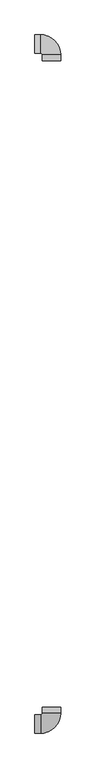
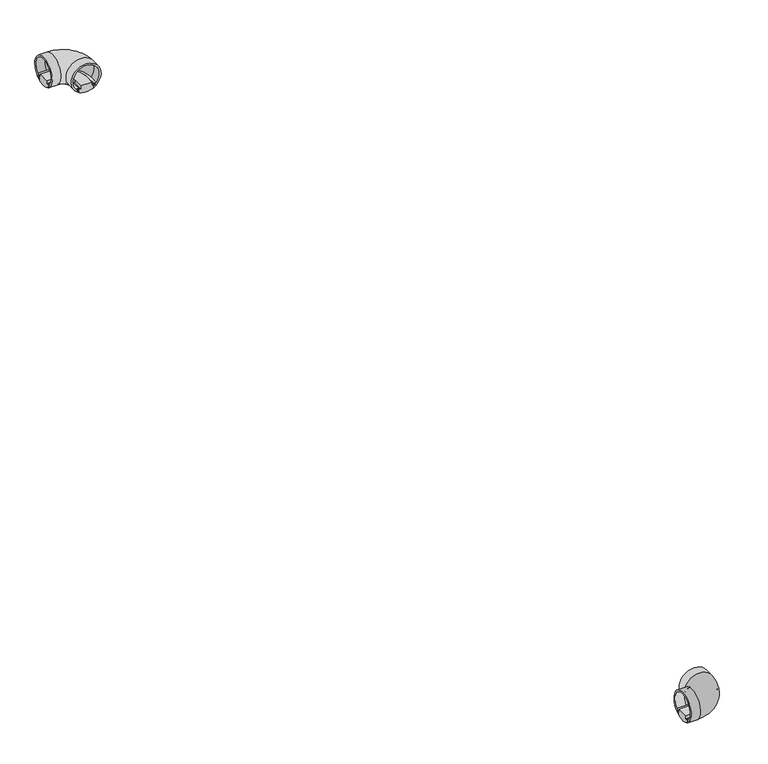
"""IFC4 building model written with IfcOpenShell, lengths in millimetres: light fixture geometry."""

from ifc_helpers import new_model, si_unit, point, frame, origin, place, context, project, spatial, polyline, circle_curve, ellipse_curve, trimmed, source, transform, mapped, element, save
from ifc_brep_helpers import plane_surface, cylinder_surface, revolved_surface, advanced_brep


def light_fixture_6dee26b3(model_context):
    return source(origin(), model_context, "Body", "AdvancedBrep", [
        advanced_brep(
        [(1897.7532014, 1700.5, 52.9333396), (1897.7532014, 1700.5, 57.259212), (1901.3072884, 1700.5, 57.259212), (1901.3072884, 1700.5, 58.785971), (1895.5094589, 1700.5, 58.785971), (1895.5094589, 1700.5, 64.4273482), (1876.4969439, 1700.5, 64.4273482), (1876.4969439, 1700.5, 58.785971), (1870.6991144, 1700.5, 58.785971), (1870.6991144, 1700.5, 57.259212), (1874.2532014, 1700.5, 57.259212), (1874.2532014, 1700.5, 52.9333396), (1840.5032014, 1757.75, 52.9333396), (1840.5032014, 1734.25, 52.9333396), (1840.5032014, 1734.25, 57.259212), (1840.5032014, 1730.695913, 57.259212), (1840.5032014, 1730.695913, 58.785971), (1840.5032014, 1736.4937425, 58.785971), (1840.5032014, 1736.4937425, 64.4273482), (1840.5032014, 1755.5062575, 64.4273482), (1840.5032014, 1755.5062575, 58.785971), (1840.5032014, 1761.304087, 58.785971), (1840.5032014, 1761.304087, 57.259212), (1840.5032014, 1757.75, 57.259212), (1874.2532014, 1716.0, 52.9333396), (1897.7532014, 1716.0, 52.9333396), (1874.2532014, 1716.0, 57.259212), (1870.6991144, 1716.0, 57.259212), (1856.0032014, 1730.695913, 57.259212), (1856.0032014, 1734.25, 57.259212), (1870.6991144, 1716.0, 58.785971), (1876.4969439, 1716.0, 58.785971), (1856.0032014, 1736.4937425, 58.785971), (1856.0032014, 1730.695913, 58.785971), (1876.4969439, 1716.0, 64.4273482), (1895.5094589, 1716.0, 64.4273482), (1856.0032014, 1755.5062575, 64.4273482), (1856.0032014, 1736.4937425, 64.4273482), (1895.5094589, 1716.0, 58.785971), (1901.3072884, 1716.0, 58.785971), (1856.0032014, 1761.304087, 58.785971), (1856.0032014, 1755.5062575, 58.785971), (1901.3072884, 1716.0, 57.259212), (1897.7532014, 1716.0, 57.259212), (1856.0032014, 1757.75, 57.259212), (1856.0032014, 1761.304087, 57.259212), (1856.0032014, 1757.75, 52.9333396), (1856.0032014, 1734.25, 52.9333396)],
        [
            (0, 1),
            (1, 2),
            (2, 3),
            (3, 4),
            (4, 5),
            (5, 6),
            (6, 7),
            (7, 8),
            (8, 9),
            (9, 10),
            (10, 11),
            (11, 0, circle_curve(frame((1886.0032014, 1700.5, 75.0), z_axis=(0.0, -1.0, 0.0), x_axis=(-1.0, 0.0, 0.0)), 25.0)),
            (12, 13, circle_curve(frame((1840.5032014, 1746.0, 75.0), z_axis=(-1.0, 0.0, 0.0), x_axis=(0.0, -1.0, 0.0)), 25.0)),
            (13, 14),
            (14, 15),
            (15, 16),
            (16, 17),
            (17, 18),
            (18, 19),
            (19, 20),
            (20, 21),
            (21, 22),
            (22, 23),
            (23, 12),
            (11, 24),
            (24, 25, circle_curve(frame((1886.0032014, 1716.0, 75.0), z_axis=(0.0, -1.0, 0.0), x_axis=(-1.0, 0.0, 0.0)), 25.0)),
            (25, 0),
            (10, 26),
            (26, 24),
            (9, 27),
            (27, 28, circle_curve(frame((1856.0032014, 1716.0, 57.259212), z_axis=(0.0, 0.0, 1.0), x_axis=(1.0, 0.0, 0.0)), 14.695913)),
            (28, 15),
            (14, 29),
            (29, 26, circle_curve(frame((1856.0032014, 1716.0, 57.259212), z_axis=(0.0, 0.0, -1.0), x_axis=(1.0, 0.0, 0.0)), 18.25)),
            (8, 30),
            (30, 27),
            (7, 31),
            (31, 32, circle_curve(frame((1856.0032014, 1716.0, 58.785971), z_axis=(0.0, 0.0, 1.0), x_axis=(1.0, 0.0, 0.0)), 20.4937425)),
            (32, 17),
            (16, 33),
            (33, 30, circle_curve(frame((1856.0032014, 1716.0, 58.785971), z_axis=(0.0, 0.0, -1.0), x_axis=(1.0, 0.0, 0.0)), 14.695913)),
            (6, 34),
            (34, 31),
            (5, 35),
            (35, 36, circle_curve(frame((1856.0032014, 1716.0, 64.4273482), z_axis=(0.0, 0.0, 1.0), x_axis=(1.0, 0.0, 0.0)), 39.5062575)),
            (36, 19),
            (18, 37),
            (37, 34, circle_curve(frame((1856.0032014, 1716.0, 64.4273482), z_axis=(0.0, 0.0, -1.0), x_axis=(1.0, 0.0, 0.0)), 20.4937425)),
            (4, 38),
            (38, 35),
            (3, 39),
            (39, 40, circle_curve(frame((1856.0032014, 1716.0, 58.785971), z_axis=(0.0, 0.0, 1.0), x_axis=(1.0, 0.0, 0.0)), 45.304087)),
            (40, 21),
            (20, 41),
            (41, 38, circle_curve(frame((1856.0032014, 1716.0, 58.785971), z_axis=(0.0, 0.0, -1.0), x_axis=(1.0, 0.0, 0.0)), 39.5062575)),
            (2, 42),
            (42, 39),
            (1, 43),
            (43, 44, circle_curve(frame((1856.0032014, 1716.0, 57.259212), z_axis=(0.0, 0.0, 1.0), x_axis=(1.0, 0.0, 0.0)), 41.75)),
            (44, 23),
            (22, 45),
            (45, 42, circle_curve(frame((1856.0032014, 1716.0, 57.259212), z_axis=(0.0, 0.0, -1.0), x_axis=(1.0, 0.0, 0.0)), 45.304087)),
            (25, 43),
            (46, 25, circle_curve(frame((1856.0032014, 1716.0, 52.9333396), z_axis=(0.0, 0.0, -1.0), x_axis=(1.0, 0.0, 0.0)), 41.75)),
            (24, 47, circle_curve(frame((1856.0032014, 1716.0, 52.9333396), z_axis=(0.0, 0.0, 1.0), x_axis=(1.0, 0.0, 0.0)), 18.25)),
            (47, 46, circle_curve(frame((1856.0032014, 1746.0, 75.0), z_axis=(1.0, 0.0, 0.0), x_axis=(0.0, -1.0, 0.0)), 25.0)),
            (29, 47),
            (33, 28),
            (37, 32),
            (41, 36),
            (45, 40),
            (46, 44),
            (47, 13),
            (12, 46),
        ],
        [
            plane_surface(frame((1886.0032014, 1700.5, 50.0), z_axis=(0.0, -1.0, 0.0), x_axis=(0.0, 0.0, 1.0))),
            plane_surface(frame((1840.5032014, 1746.0, 50.0), z_axis=(-1.0, 0.0, 0.0), x_axis=(0.0, 0.0, 1.0))),
            cylinder_surface(frame((1886.0032014, 1700.5, 75.0), z_axis=(0.0, -1.0, 0.0), x_axis=(-1.0, 0.0, 0.0)), 25.0),
            plane_surface(frame((1874.2532014, 1700.5, 57.259212), z_axis=(-1.0, 0.0, 0.0), x_axis=(0.0, 1.0, 0.0))),
            plane_surface(frame((1870.6991144, 1700.5, 57.259212), z_axis=(0.0, 0.0, -1.0), x_axis=(0.0, 1.0, 0.0))),
            plane_surface(frame((1870.6991144, 1700.5, 58.785971), z_axis=(-1.0, 0.0, 0.0), x_axis=(0.0, 1.0, 0.0))),
            plane_surface(frame((1876.4969439, 1700.5, 58.785971), z_axis=(0.0, 0.0, 1.0), x_axis=(0.0, 1.0, 0.0))),
            plane_surface(frame((1876.4969439, 1700.5, 64.4273482), z_axis=(-1.0, 0.0, 0.0), x_axis=(0.0, 1.0, 0.0))),
            plane_surface(frame((1895.5094589, 1700.5, 64.4273482), z_axis=(0.0, 0.0, 1.0), x_axis=(0.0, 1.0, 0.0))),
            plane_surface(frame((1895.5094589, 1700.5, 58.785971), z_axis=(1.0, 0.0, 0.0), x_axis=(0.0, 1.0, 0.0))),
            plane_surface(frame((1901.3072884, 1700.5, 58.785971), z_axis=(0.0, 0.0, 1.0), x_axis=(0.0, 1.0, 0.0))),
            plane_surface(frame((1901.3072884, 1700.5, 57.259212), z_axis=(1.0, 0.0, 0.0), x_axis=(0.0, 1.0, 0.0))),
            plane_surface(frame((1897.7532014, 1700.5, 57.259212), z_axis=(0.0, 0.0, -1.0), x_axis=(0.0, 1.0, 0.0))),
            plane_surface(frame((1897.7532014, 1700.5, 52.9333396), z_axis=(1.0, 0.0, 0.0), x_axis=(0.0, 1.0, 0.0))),
            revolved_surface(trimmed(ellipse_curve(frame((1886.0032014, 1716.0, 75.0), z_axis=(0.0, -1.0, 0.0), x_axis=(-1.0, 0.0, 0.0)), 25.0, 25.0), [point((1874.2532014, 1716.0, 52.9333396))], [point((1897.7532014, 1716.0, 52.9333396))], True, "CARTESIAN"), (1856.0032014, 1716.0, 50.0), (0.0, 0.0, 1.0)),
            revolved_surface(polyline([(1874.2532014, 1716.0, 57.259212), (1874.2532014, 1716.0, 52.9333396)]), (1856.0032014, 1716.0, 50.0), (0.0, 0.0, 1.0)),
            revolved_surface(polyline([(1870.6991144, 1716.0, 58.785971), (1870.6991144, 1716.0, 57.259212)]), (1856.0032014, 1716.0, 50.0), (0.0, 0.0, 1.0)),
            revolved_surface(polyline([(1876.4969439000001, 1716.0, 64.4273482), (1876.4969439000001, 1716.0, 58.785971)]), (1856.0032014, 1716.0, 50.0), (0.0, 0.0, 1.0)),
            cylinder_surface(frame((1856.0032014, 1716.0, 50.0), z_axis=(0.0, 0.0, 1.0), x_axis=(1.0, 0.0, 0.0)), 39.5062575),
            cylinder_surface(frame((1856.0032014, 1716.0, 50.0), z_axis=(0.0, 0.0, 1.0), x_axis=(1.0, 0.0, 0.0)), 45.304087),
            cylinder_surface(frame((1856.0032014, 1716.0, 50.0), z_axis=(0.0, 0.0, 1.0), x_axis=(1.0, 0.0, 0.0)), 41.75),
            cylinder_surface(frame((1856.0032014, 1746.0, 75.0), z_axis=(1.0, 0.0, 0.0), x_axis=(0.0, -1.0, 0.0)), 25.0),
            plane_surface(frame((1856.0032014, 1734.25, 57.259212), z_axis=(0.0, -1.0, 0.0), x_axis=(-1.0, 0.0, 0.0))),
            plane_surface(frame((1856.0032014, 1730.695913, 58.785971), z_axis=(0.0, -1.0, 0.0), x_axis=(-1.0, 0.0, 0.0))),
            plane_surface(frame((1856.0032014, 1736.4937425, 64.4273482), z_axis=(0.0, -1.0, 0.0), x_axis=(-1.0, 0.0, 0.0))),
            plane_surface(frame((1856.0032014, 1755.5062575, 58.785971), z_axis=(0.0, 1.0, 0.0), x_axis=(-1.0, 0.0, 0.0))),
            plane_surface(frame((1856.0032014, 1761.304087, 57.259212), z_axis=(0.0, 1.0, 0.0), x_axis=(-1.0, 0.0, 0.0))),
            plane_surface(frame((1856.0032014, 1757.75, 52.9333396), z_axis=(0.0, 1.0, 0.0), x_axis=(-1.0, 0.0, 0.0))),
        ],
        [
            (0, [[1, 2, 3, 4, 5, 6, 7, 8, 9, 10, 11, 12]]),
            (1, [[13, 14, 15, 16, 17, 18, 19, 20, 21, 22, 23, 24]]),
            (2, [[-12, 25, 26, 27]]),
            (3, [[-11, 28, 29, -25]]),
            (4, [[-10, 30, 31, 32, -15, 33, 34, -28]]),
            (5, [[-9, 35, 36, -30]]),
            (6, [[-8, 37, 38, 39, -17, 40, 41, -35]]),
            (7, [[-7, 42, 43, -37]]),
            (8, [[-6, 44, 45, 46, -19, 47, 48, -42]]),
            (9, [[-5, 49, 50, -44]]),
            (10, [[-4, 51, 52, 53, -21, 54, 55, -49]]),
            (11, [[-3, 56, 57, -51]]),
            (12, [[-2, 58, 59, 60, -23, 61, 62, -56]]),
            (13, [[-1, -27, 63, -58]]),
            (14, [[64, -26, 65, 66]]),
            (15, [[-65, -29, -34, 67]]),
            (16, [[-31, -36, -41, 68]]),
            (17, [[-38, -43, -48, 69]]),
            (18, [[-45, -50, -55, 70]]),
            (19, [[-52, -57, -62, 71]]),
            (20, [[-59, -63, -64, 72]]),
            (21, [[-66, 73, -13, 74]]),
            (22, [[-67, -33, -14, -73]]),
            (23, [[-68, -40, -16, -32]]),
            (24, [[-69, -47, -18, -39]]),
            (25, [[-70, -54, -20, -46]]),
            (26, [[-71, -61, -22, -53]]),
            (27, [[-72, -74, -24, -60]]),
        ],
    ),
        advanced_brep(
        [(1874.2532014, 1700.5, 52.9333396), (1874.2532014, 1700.5, 57.259212), (1872.3354474, 1700.5, 57.259212), (1872.3354474, 1700.5, 55.8288843), (1870.3854474, 1700.5, 57.2440748), (1870.3854474, 1700.5, 59.244074), (1873.3354474, 1700.5, 59.244074), (1873.3354474, 1700.5, 60.744074), (1868.725222, 1700.5, 60.744074), (1903.2811808, 1700.5, 60.744074), (1898.6709554, 1700.5, 60.744074), (1898.6709554, 1700.5, 59.244074), (1901.6209554, 1700.5, 59.244074), (1901.6209554, 1700.5, 57.2440748), (1899.6709554, 1700.5, 55.8288843), (1899.6709554, 1700.5, 57.259212), (1897.7532014, 1700.5, 57.259212), (1897.7532014, 1700.5, 52.9333396), (1840.5032014, 1734.25, 52.9333396), (1840.5032014, 1757.75, 52.9333396), (1840.5032014, 1757.75, 57.259212), (1840.5032014, 1759.667754, 57.259212), (1840.5032014, 1759.667754, 55.8288843), (1840.5032014, 1761.617754, 57.2440748), (1840.5032014, 1761.617754, 59.244074), (1840.5032014, 1758.667754, 59.244074), (1840.5032014, 1758.667754, 60.744074), (1840.5032014, 1763.2779794, 60.744074), (1840.5032014, 1728.7220206, 60.744074), (1840.5032014, 1733.332246, 60.744074), (1840.5032014, 1733.332246, 59.244074), (1840.5032014, 1730.382246, 59.244074), (1840.5032014, 1730.382246, 57.2440748), (1840.5032014, 1732.332246, 55.8288843), (1840.5032014, 1732.332246, 57.259212), (1840.5032014, 1734.25, 57.259212), (1897.7532014, 1716.0, 52.9333396), (1874.2532014, 1716.0, 52.9333396), (1897.7532014, 1716.0, 57.259212), (1899.6709554, 1716.0, 57.259212), (1856.0032014, 1759.667754, 57.259212), (1856.0032014, 1757.75, 57.259212), (1899.6709554, 1716.0, 55.8288843), (1901.6209554, 1716.0, 57.2440748), (1901.6209554, 1716.0, 59.244074), (1898.6709554, 1716.0, 59.244074), (1856.0032014, 1758.667754, 59.244074), (1856.0032014, 1761.617754, 59.244074), (1898.6709554, 1716.0, 60.744074), (1903.2811808, 1716.0, 60.744074), (1856.0032014, 1763.2779794, 60.744074), (1856.0032014, 1758.667754, 60.744074), (1868.725222, 1716.0, 60.744074), (1873.3354474, 1716.0, 60.744074), (1856.0032014, 1733.332246, 60.744074), (1856.0032014, 1728.7220206, 60.744074), (1873.3354474, 1716.0, 59.244074), (1870.3854474, 1716.0, 59.244074), (1856.0032014, 1730.382246, 59.244074), (1856.0032014, 1733.332246, 59.244074), (1870.3854474, 1716.0, 57.2440748), (1872.3354474, 1716.0, 55.8288843), (1872.3354474, 1716.0, 57.259212), (1874.2532014, 1716.0, 57.259212), (1856.0032014, 1734.25, 57.259212), (1856.0032014, 1732.332246, 57.259212), (1856.0032014, 1734.25, 52.9333396), (1856.0032014, 1757.75, 52.9333396), (1856.0032014, 1759.667754, 55.8288843), (1856.0032014, 1761.617754, 57.2440748), (1856.0032014, 1730.382246, 57.2440748), (1856.0032014, 1732.332246, 55.8288843)],
        [
            (0, 1),
            (1, 2),
            (2, 3),
            (3, 4),
            (4, 5),
            (5, 6),
            (6, 7),
            (7, 8),
            (8, 9, circle_curve(frame((1886.0032014, 1700.5, 75.0), z_axis=(0.0, 1.0, 0.0), x_axis=(-1.0, 0.0, 0.0)), 22.4)),
            (9, 10),
            (10, 11),
            (11, 12),
            (12, 13),
            (13, 14),
            (14, 15),
            (15, 16),
            (16, 17),
            (17, 0, circle_curve(frame((1886.0032014, 1700.5, 75.0), z_axis=(0.0, -1.0, 0.0), x_axis=(-1.0, 0.0, 0.0)), 25.0)),
            (18, 19, circle_curve(frame((1840.5032014, 1746.0, 75.0), z_axis=(-1.0, 0.0, 0.0), x_axis=(0.0, -1.0, 0.0)), 25.0)),
            (19, 20),
            (20, 21),
            (21, 22),
            (22, 23),
            (23, 24),
            (24, 25),
            (25, 26),
            (26, 27),
            (27, 28, circle_curve(frame((1840.5032014, 1746.0, 75.0), z_axis=(1.0, 0.0, 0.0), x_axis=(0.0, -1.0, 0.0)), 22.4)),
            (28, 29),
            (29, 30),
            (30, 31),
            (31, 32),
            (32, 33),
            (33, 34),
            (34, 35),
            (35, 18),
            (17, 36),
            (36, 37, circle_curve(frame((1886.0032014, 1716.0, 75.0), z_axis=(0.0, -1.0, 0.0), x_axis=(-1.0, 0.0, 0.0)), 25.0)),
            (37, 0),
            (16, 38),
            (38, 36),
            (15, 39),
            (39, 40, circle_curve(frame((1856.0032014, 1716.0, 57.259212), z_axis=(0.0, 0.0, 1.0), x_axis=(1.0, 0.0, 0.0)), 43.667754)),
            (40, 21),
            (20, 41),
            (41, 38, circle_curve(frame((1856.0032014, 1716.0, 57.259212), z_axis=(0.0, 0.0, -1.0), x_axis=(1.0, 0.0, 0.0)), 41.75)),
            (14, 42),
            (42, 39),
            (13, 43),
            (43, 42),
            (12, 44),
            (44, 43),
            (11, 45),
            (45, 46, circle_curve(frame((1856.0032014, 1716.0, 59.244074), z_axis=(0.0, 0.0, 1.0), x_axis=(1.0, 0.0, 0.0)), 42.667754)),
            (46, 25),
            (24, 47),
            (47, 44, circle_curve(frame((1856.0032014, 1716.0, 59.244074), z_axis=(0.0, 0.0, -1.0), x_axis=(1.0, 0.0, 0.0)), 45.617754)),
            (10, 48),
            (48, 45),
            (9, 49),
            (49, 50, circle_curve(frame((1856.0032014, 1716.0, 60.744074), z_axis=(0.0, 0.0, 1.0), x_axis=(1.0, 0.0, 0.0)), 47.2779794)),
            (50, 27),
            (26, 51),
            (51, 48, circle_curve(frame((1856.0032014, 1716.0, 60.744074), z_axis=(0.0, 0.0, -1.0), x_axis=(1.0, 0.0, 0.0)), 42.667754)),
            (8, 52),
            (52, 49, circle_curve(frame((1886.0032014, 1716.0, 75.0), z_axis=(0.0, 1.0, 0.0), x_axis=(-1.0, 0.0, 0.0)), 22.4)),
            (7, 53),
            (53, 54, circle_curve(frame((1856.0032014, 1716.0, 60.744074), z_axis=(0.0, 0.0, 1.0), x_axis=(1.0, 0.0, 0.0)), 17.332246)),
            (54, 29),
            (28, 55),
            (55, 52, circle_curve(frame((1856.0032014, 1716.0, 60.744074), z_axis=(0.0, 0.0, -1.0), x_axis=(1.0, 0.0, 0.0)), 12.7220206)),
            (6, 56),
            (56, 53),
            (5, 57),
            (57, 58, circle_curve(frame((1856.0032014, 1716.0, 59.244074), z_axis=(0.0, 0.0, 1.0), x_axis=(1.0, 0.0, 0.0)), 14.382246)),
            (58, 31),
            (30, 59),
            (59, 56, circle_curve(frame((1856.0032014, 1716.0, 59.244074), z_axis=(0.0, 0.0, -1.0), x_axis=(1.0, 0.0, 0.0)), 17.332246)),
            (4, 60),
            (60, 57),
            (3, 61),
            (61, 60),
            (2, 62),
            (62, 61),
            (1, 63),
            (63, 64, circle_curve(frame((1856.0032014, 1716.0, 57.259212), z_axis=(0.0, 0.0, 1.0), x_axis=(1.0, 0.0, 0.0)), 18.25)),
            (64, 35),
            (34, 65),
            (65, 62, circle_curve(frame((1856.0032014, 1716.0, 57.259212), z_axis=(0.0, 0.0, -1.0), x_axis=(1.0, 0.0, 0.0)), 16.332246)),
            (37, 63),
            (66, 37, circle_curve(frame((1856.0032014, 1716.0, 52.9333396), z_axis=(0.0, 0.0, -1.0), x_axis=(1.0, 0.0, 0.0)), 18.25)),
            (36, 67, circle_curve(frame((1856.0032014, 1716.0, 52.9333396), z_axis=(0.0, 0.0, 1.0), x_axis=(1.0, 0.0, 0.0)), 41.75)),
            (67, 66, circle_curve(frame((1856.0032014, 1746.0, 75.0), z_axis=(1.0, 0.0, 0.0), x_axis=(0.0, -1.0, 0.0)), 25.0)),
            (41, 67),
            (42, 68, circle_curve(frame((1856.0032014, 1716.0, 55.8288843), z_axis=(0.0, 0.0, 1.0), x_axis=(1.0, 0.0, 0.0)), 43.667754)),
            (68, 40),
            (43, 69, circle_curve(frame((1856.0032014, 1716.0, 57.2440748), z_axis=(0.0, 0.0, 1.0), x_axis=(1.0, 0.0, 0.0)), 45.617754)),
            (69, 68),
            (47, 69),
            (51, 46),
            (55, 50, circle_curve(frame((1856.0032014, 1746.0, 75.0), z_axis=(-1.0, 0.0, 0.0), x_axis=(0.0, -1.0, 0.0)), 22.4)),
            (59, 54),
            (60, 70, circle_curve(frame((1856.0032014, 1716.0, 57.2440748), z_axis=(0.0, 0.0, 1.0), x_axis=(1.0, 0.0, 0.0)), 14.382246)),
            (70, 58),
            (61, 71, circle_curve(frame((1856.0032014, 1716.0, 55.8288843), z_axis=(0.0, 0.0, 1.0), x_axis=(1.0, 0.0, 0.0)), 16.332246)),
            (71, 70),
            (65, 71),
            (66, 64),
            (67, 19),
            (18, 66),
            (68, 22),
            (69, 23),
            (70, 32),
            (71, 33),
        ],
        [
            plane_surface(frame((1886.0032014, 1700.5, 50.0), z_axis=(0.0, -1.0, 0.0), x_axis=(0.0, 0.0, 1.0))),
            plane_surface(frame((1840.5032014, 1746.0, 50.0), z_axis=(-1.0, 0.0, 0.0), x_axis=(0.0, 0.0, 1.0))),
            cylinder_surface(frame((1886.0032014, 1700.5, 75.0), z_axis=(0.0, -1.0, 0.0), x_axis=(-1.0, 0.0, 0.0)), 25.0),
            plane_surface(frame((1897.7532014, 1700.5, 57.259212), z_axis=(-1.0, 0.0, 0.0), x_axis=(0.0, 1.0, 0.0))),
            plane_surface(frame((1899.6709554, 1700.5, 57.259212), z_axis=(0.0, 0.0, 1.0), x_axis=(0.0, 1.0, 0.0))),
            plane_surface(frame((1899.6709554, 1700.5, 55.8288843), z_axis=(1.0, 0.0, 0.0), x_axis=(0.0, 1.0, 0.0))),
            plane_surface(frame((1901.6209554, 1700.5, 57.2440748), z_axis=(-0.5873593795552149, 0.0, 0.8093262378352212), x_axis=(0.0, 1.0, 0.0))),
            plane_surface(frame((1901.6209554, 1700.5, 59.244074), z_axis=(-1.0, 0.0, 0.0), x_axis=(0.0, 1.0, 0.0))),
            plane_surface(frame((1898.6709554, 1700.5, 59.244074), z_axis=(0.0, 0.0, -1.0), x_axis=(0.0, 1.0, 0.0))),
            plane_surface(frame((1898.6709554, 1700.5, 60.744074), z_axis=(-1.0, 0.0, 0.0), x_axis=(0.0, 1.0, 0.0))),
            plane_surface(frame((1903.2811808, 1700.5, 60.744074), z_axis=(0.0, 0.0, 1.0), x_axis=(0.0, 1.0, 0.0))),
            revolved_surface(polyline([(1863.6032014, 1716.0, 75.0), (1863.6032014, 1700.5, 75.0)]), (1886.0032014, 1700.5, 75.0), (0.0, 1.0, 0.0)),
            plane_surface(frame((1873.3354474, 1700.5, 60.744074), z_axis=(0.0, 0.0, 1.0), x_axis=(0.0, 1.0, 0.0))),
            plane_surface(frame((1873.3354474, 1700.5, 59.244074), z_axis=(1.0, 0.0, 0.0), x_axis=(0.0, 1.0, 0.0))),
            plane_surface(frame((1870.3854474, 1700.5, 59.244074), z_axis=(0.0, 0.0, -1.0), x_axis=(0.0, 1.0, 0.0))),
            plane_surface(frame((1870.3854474, 1700.5, 57.2440748), z_axis=(1.0, 0.0, 0.0), x_axis=(0.0, 1.0, 0.0))),
            plane_surface(frame((1872.3354474, 1700.5, 55.8288843), z_axis=(0.5873593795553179, 0.0, 0.8093262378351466), x_axis=(0.0, 1.0, 0.0))),
            plane_surface(frame((1872.3354474, 1700.5, 57.259212), z_axis=(-1.0, 0.0, 0.0), x_axis=(0.0, 1.0, 0.0))),
            plane_surface(frame((1874.2532014, 1700.5, 57.259212), z_axis=(0.0, 0.0, 1.0), x_axis=(0.0, 1.0, 0.0))),
            plane_surface(frame((1874.2532014, 1700.5, 52.9333396), z_axis=(1.0, 0.0, 0.0), x_axis=(0.0, 1.0, 0.0))),
            revolved_surface(trimmed(ellipse_curve(frame((1886.0032014, 1716.0, 75.0), z_axis=(0.0, -1.0, 0.0), x_axis=(-1.0, 0.0, 0.0)), 25.0, 25.0), [point((1897.7532014, 1716.0, 52.9333396))], [point((1874.2532014, 1716.0, 52.9333396))], True, "CARTESIAN"), (1856.0032014, 1716.0, 50.0), (0.0, 0.0, 1.0)),
            revolved_surface(polyline([(1897.7532014, 1716.0, 57.259212), (1897.7532014, 1716.0, 52.9333396)]), (1856.0032014, 1716.0, 50.0), (0.0, 0.0, 1.0)),
            cylinder_surface(frame((1856.0032014, 1716.0, 50.0), z_axis=(0.0, 0.0, 1.0), x_axis=(1.0, 0.0, 0.0)), 43.667754),
            revolved_surface(polyline([(1901.6209554, 1716.0, 57.2440748), (1899.6709554, 1716.0, 55.8288843)]), (1856.0032014, 1716.0, 50.0), (0.0, 0.0, 1.0)),
            revolved_surface(polyline([(1901.6209554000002, 1716.0, 59.244074), (1901.6209554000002, 1716.0, 57.2440748)]), (1856.0032014, 1716.0, 50.0), (0.0, 0.0, 1.0)),
            revolved_surface(polyline([(1898.6709554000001, 1716.0, 60.744074), (1898.6709554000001, 1716.0, 59.244074)]), (1856.0032014, 1716.0, 50.0), (0.0, 0.0, 1.0)),
            revolved_surface(trimmed(ellipse_curve(frame((1886.0032014, 1716.0, 75.0), z_axis=(0.0, 1.0, 0.0), x_axis=(-1.0, 0.0, 0.0)), 22.4, 22.4), [point((1868.725222, 1716.0, 60.744074))], [point((1903.2811808, 1716.0, 60.744074))], True, "CARTESIAN"), (1856.0032014, 1716.0, 50.0), (0.0, 0.0, 1.0)),
            cylinder_surface(frame((1856.0032014, 1716.0, 50.0), z_axis=(0.0, 0.0, 1.0), x_axis=(1.0, 0.0, 0.0)), 17.332246),
            cylinder_surface(frame((1856.0032014, 1716.0, 50.0), z_axis=(0.0, 0.0, 1.0), x_axis=(1.0, 0.0, 0.0)), 14.382246),
            revolved_surface(polyline([(1872.3354474, 1716.0, 55.8288843), (1870.3854474, 1716.0, 57.2440748)]), (1856.0032014, 1716.0, 50.0), (0.0, 0.0, 1.0)),
            revolved_surface(polyline([(1872.3354474, 1716.0, 57.259212), (1872.3354474, 1716.0, 55.8288843)]), (1856.0032014, 1716.0, 50.0), (0.0, 0.0, 1.0)),
            cylinder_surface(frame((1856.0032014, 1716.0, 50.0), z_axis=(0.0, 0.0, 1.0), x_axis=(1.0, 0.0, 0.0)), 18.25),
            cylinder_surface(frame((1856.0032014, 1746.0, 75.0), z_axis=(1.0, 0.0, 0.0), x_axis=(0.0, -1.0, 0.0)), 25.0),
            plane_surface(frame((1856.0032014, 1757.75, 57.259212), z_axis=(0.0, -1.0, 0.0), x_axis=(-1.0, 0.0, 0.0))),
            plane_surface(frame((1856.0032014, 1759.667754, 55.8288843), z_axis=(0.0, 1.0, 0.0), x_axis=(-1.0, 0.0, 0.0))),
            plane_surface(frame((1856.0032014, 1761.617754, 57.2440748), z_axis=(0.0, -0.5873593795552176, 0.8093262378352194), x_axis=(-1.0, 0.0, 0.0))),
            plane_surface(frame((1856.0032014, 1761.617754, 59.244074), z_axis=(0.0, -1.0, 0.0), x_axis=(-1.0, 0.0, 0.0))),
            plane_surface(frame((1856.0032014, 1758.667754, 60.744074), z_axis=(0.0, -1.0, 0.0), x_axis=(-1.0, 0.0, 0.0))),
            revolved_surface(polyline([(1840.5032014, 1723.6, 75.0), (1856.0032014, 1723.6, 75.0)]), (1856.0032014, 1746.0, 75.0), (-1.0, 0.0, 0.0)),
            plane_surface(frame((1856.0032014, 1733.332246, 59.244074), z_axis=(0.0, 1.0, 0.0), x_axis=(-1.0, 0.0, 0.0))),
            plane_surface(frame((1856.0032014, 1730.382246, 57.2440748), z_axis=(0.0, 1.0, 0.0), x_axis=(-1.0, 0.0, 0.0))),
            plane_surface(frame((1856.0032014, 1732.332246, 55.8288843), z_axis=(0.0, 0.5873593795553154, 0.8093262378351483), x_axis=(-1.0, 0.0, 0.0))),
            plane_surface(frame((1856.0032014, 1732.332246, 57.259212), z_axis=(0.0, -1.0, 0.0), x_axis=(-1.0, 0.0, 0.0))),
            plane_surface(frame((1856.0032014, 1734.25, 52.9333396), z_axis=(0.0, 1.0, 0.0), x_axis=(-1.0, 0.0, 0.0))),
        ],
        [
            (0, [[1, 2, 3, 4, 5, 6, 7, 8, 9, 10, 11, 12, 13, 14, 15, 16, 17, 18]]),
            (1, [[19, 20, 21, 22, 23, 24, 25, 26, 27, 28, 29, 30, 31, 32, 33, 34, 35, 36]]),
            (2, [[-18, 37, 38, 39]]),
            (3, [[-17, 40, 41, -37]]),
            (4, [[-16, 42, 43, 44, -21, 45, 46, -40]]),
            (5, [[-15, 47, 48, -42]]),
            (6, [[-14, 49, 50, -47]]),
            (7, [[-13, 51, 52, -49]]),
            (8, [[-12, 53, 54, 55, -25, 56, 57, -51]]),
            (9, [[-11, 58, 59, -53]]),
            (10, [[-10, 60, 61, 62, -27, 63, 64, -58]]),
            (11, [[-9, 65, 66, -60]]),
            (12, [[-8, 67, 68, 69, -29, 70, 71, -65]]),
            (13, [[-7, 72, 73, -67]]),
            (14, [[-6, 74, 75, 76, -31, 77, 78, -72]]),
            (15, [[-5, 79, 80, -74]]),
            (16, [[-4, 81, 82, -79]]),
            (17, [[-3, 83, 84, -81]]),
            (18, [[-2, 85, 86, 87, -35, 88, 89, -83]]),
            (19, [[-1, -39, 90, -85]]),
            (20, [[91, -38, 92, 93]]),
            (21, [[-92, -41, -46, 94]]),
            (22, [[-43, -48, 95, 96]]),
            (23, [[-95, -50, 97, 98]]),
            (24, [[-97, -52, -57, 99]]),
            (25, [[-54, -59, -64, 100]]),
            (26, [[-61, -66, -71, 101]]),
            (27, [[-68, -73, -78, 102]]),
            (28, [[-75, -80, 103, 104]]),
            (29, [[-103, -82, 105, 106]]),
            (30, [[-105, -84, -89, 107]]),
            (31, [[-86, -90, -91, 108]]),
            (32, [[-93, 109, -19, 110]]),
            (33, [[-94, -45, -20, -109]]),
            (34, [[-96, 111, -22, -44]]),
            (35, [[-98, 112, -23, -111]]),
            (36, [[-99, -56, -24, -112]]),
            (37, [[-100, -63, -26, -55]]),
            (38, [[-101, -70, -28, -62]]),
            (39, [[-102, -77, -30, -69]]),
            (40, [[-104, 113, -32, -76]]),
            (41, [[-106, 114, -33, -113]]),
            (42, [[-107, -88, -34, -114]]),
            (43, [[-108, -110, -36, -87]]),
        ],
    ),
        advanced_brep(
        [(1840.5032014, -126.75, 52.9333396), (1840.5032014, -126.75, 57.259212), (1840.5032014, -130.304087, 57.259212), (1840.5032014, -130.304087, 58.785971), (1840.5032014, -124.5062575, 58.785971), (1840.5032014, -124.5062575, 64.4273482), (1840.5032014, -105.4937425, 64.4273482), (1840.5032014, -105.4937425, 58.785971), (1840.5032014, -99.695913, 58.785971), (1840.5032014, -99.695913, 57.259212), (1840.5032014, -103.25, 57.259212), (1840.5032014, -103.25, 52.9333396), (1897.7532014, -69.5, 52.9333396), (1874.2532014, -69.5, 52.9333396), (1874.2532014, -69.5, 57.259212), (1870.6991144, -69.5, 57.259212), (1870.6991144, -69.5, 58.785971), (1876.4969439, -69.5, 58.785971), (1876.4969439, -69.5, 64.4273482), (1895.5094589, -69.5, 64.4273482), (1895.5094589, -69.5, 58.785971), (1901.3072884, -69.5, 58.785971), (1901.3072884, -69.5, 57.259212), (1897.7532014, -69.5, 57.259212), (1856.0032014, -103.25, 52.9333396), (1856.0032014, -126.75, 52.9333396), (1856.0032014, -103.25, 57.259212), (1856.0032014, -99.695913, 57.259212), (1870.6991144, -85.0, 57.259212), (1874.2532014, -85.0, 57.259212), (1856.0032014, -99.695913, 58.785971), (1856.0032014, -105.4937425, 58.785971), (1876.4969439, -85.0, 58.785971), (1870.6991144, -85.0, 58.785971), (1856.0032014, -105.4937425, 64.4273482), (1856.0032014, -124.5062575, 64.4273482), (1895.5094589, -85.0, 64.4273482), (1876.4969439, -85.0, 64.4273482), (1856.0032014, -124.5062575, 58.785971), (1856.0032014, -130.304087, 58.785971), (1901.3072884, -85.0, 58.785971), (1895.5094589, -85.0, 58.785971), (1856.0032014, -130.304087, 57.259212), (1856.0032014, -126.75, 57.259212), (1897.7532014, -85.0, 57.259212), (1901.3072884, -85.0, 57.259212), (1897.7532014, -85.0, 52.9333396), (1874.2532014, -85.0, 52.9333396)],
        [
            (0, 1),
            (1, 2),
            (2, 3),
            (3, 4),
            (4, 5),
            (5, 6),
            (6, 7),
            (7, 8),
            (8, 9),
            (9, 10),
            (10, 11),
            (11, 0, circle_curve(frame((1840.5032014, -115.0, 75.0), z_axis=(-1.0, 0.0, 0.0), x_axis=(0.0, 1.0, 0.0)), 25.0)),
            (12, 13, circle_curve(frame((1886.0032014, -69.5, 75.0), z_axis=(0.0, 1.0, 0.0), x_axis=(-1.0, 0.0, 0.0)), 25.0)),
            (13, 14),
            (14, 15),
            (15, 16),
            (16, 17),
            (17, 18),
            (18, 19),
            (19, 20),
            (20, 21),
            (21, 22),
            (22, 23),
            (23, 12),
            (11, 24),
            (24, 25, circle_curve(frame((1856.0032014, -115.0, 75.0), z_axis=(-1.0, 0.0, 0.0), x_axis=(0.0, 1.0, 0.0)), 25.0)),
            (25, 0),
            (10, 26),
            (26, 24),
            (9, 27),
            (27, 28, circle_curve(frame((1856.0032014, -85.0, 57.259212), z_axis=(0.0, 0.0, 1.0), x_axis=(0.0, -1.0, 0.0)), 14.695913)),
            (28, 15),
            (14, 29),
            (29, 26, circle_curve(frame((1856.0032014, -85.0, 57.259212), z_axis=(0.0, 0.0, -1.0), x_axis=(0.0, -1.0, 0.0)), 18.25)),
            (8, 30),
            (30, 27),
            (7, 31),
            (31, 32, circle_curve(frame((1856.0032014, -85.0, 58.785971), z_axis=(0.0, 0.0, 1.0), x_axis=(0.0, -1.0, 0.0)), 20.4937425)),
            (32, 17),
            (16, 33),
            (33, 30, circle_curve(frame((1856.0032014, -85.0, 58.785971), z_axis=(0.0, 0.0, -1.0), x_axis=(0.0, -1.0, 0.0)), 14.695913)),
            (6, 34),
            (34, 31),
            (5, 35),
            (35, 36, circle_curve(frame((1856.0032014, -85.0, 64.4273482), z_axis=(0.0, 0.0, 1.0), x_axis=(0.0, -1.0, 0.0)), 39.5062575)),
            (36, 19),
            (18, 37),
            (37, 34, circle_curve(frame((1856.0032014, -85.0, 64.4273482), z_axis=(0.0, 0.0, -1.0), x_axis=(0.0, -1.0, 0.0)), 20.4937425)),
            (4, 38),
            (38, 35),
            (3, 39),
            (39, 40, circle_curve(frame((1856.0032014, -85.0, 58.785971), z_axis=(0.0, 0.0, 1.0), x_axis=(0.0, -1.0, 0.0)), 45.304087)),
            (40, 21),
            (20, 41),
            (41, 38, circle_curve(frame((1856.0032014, -85.0, 58.785971), z_axis=(0.0, 0.0, -1.0), x_axis=(0.0, -1.0, 0.0)), 39.5062575)),
            (2, 42),
            (42, 39),
            (1, 43),
            (43, 44, circle_curve(frame((1856.0032014, -85.0, 57.259212), z_axis=(0.0, 0.0, 1.0), x_axis=(0.0, -1.0, 0.0)), 41.75)),
            (44, 23),
            (22, 45),
            (45, 42, circle_curve(frame((1856.0032014, -85.0, 57.259212), z_axis=(0.0, 0.0, -1.0), x_axis=(0.0, -1.0, 0.0)), 45.304087)),
            (25, 43),
            (46, 25, circle_curve(frame((1856.0032014, -85.0, 52.9333396), z_axis=(0.0, 0.0, -1.0), x_axis=(0.0, -1.0, 0.0)), 41.75)),
            (24, 47, circle_curve(frame((1856.0032014, -85.0, 52.9333396), z_axis=(0.0, 0.0, 1.0), x_axis=(0.0, -1.0, 0.0)), 18.25)),
            (47, 46, circle_curve(frame((1886.0032014, -85.0, 75.0), z_axis=(0.0, -1.0, 0.0), x_axis=(-1.0, 0.0, 0.0)), 25.0)),
            (29, 47),
            (33, 28),
            (37, 32),
            (41, 36),
            (45, 40),
            (46, 44),
            (47, 13),
            (12, 46),
        ],
        [
            plane_surface(frame((1840.5032014, -115.0, 50.0), z_axis=(-1.0, 0.0, 0.0), x_axis=(0.0, 0.0, 1.0))),
            plane_surface(frame((1886.0032014, -69.5, 50.0), z_axis=(0.0, 1.0, 0.0), x_axis=(0.0, 0.0, 1.0))),
            cylinder_surface(frame((1840.5032014, -115.0, 75.0), z_axis=(-1.0, 0.0, 0.0), x_axis=(0.0, 1.0, 0.0)), 25.0),
            plane_surface(frame((1840.5032014, -103.25, 57.259212), z_axis=(0.0, 1.0, 0.0), x_axis=(1.0, 0.0, 0.0))),
            plane_surface(frame((1840.5032014, -99.695913, 57.259212), z_axis=(0.0, 0.0, -1.0), x_axis=(1.0, 0.0, 0.0))),
            plane_surface(frame((1840.5032014, -99.695913, 58.785971), z_axis=(0.0, 1.0, 0.0), x_axis=(1.0, 0.0, 0.0))),
            plane_surface(frame((1840.5032014, -105.4937425, 58.785971), z_axis=(0.0, 0.0, 1.0), x_axis=(1.0, 0.0, 0.0))),
            plane_surface(frame((1840.5032014, -105.4937425, 64.4273482), z_axis=(0.0, 1.0, 0.0), x_axis=(1.0, 0.0, 0.0))),
            plane_surface(frame((1840.5032014, -124.5062575, 64.4273482), z_axis=(0.0, 0.0, 1.0), x_axis=(1.0, 0.0, 0.0))),
            plane_surface(frame((1840.5032014, -124.5062575, 58.785971), z_axis=(0.0, -1.0, 0.0), x_axis=(1.0, 0.0, 0.0))),
            plane_surface(frame((1840.5032014, -130.304087, 58.785971), z_axis=(0.0, 0.0, 1.0), x_axis=(1.0, 0.0, 0.0))),
            plane_surface(frame((1840.5032014, -130.304087, 57.259212), z_axis=(0.0, -1.0, 0.0), x_axis=(1.0, 0.0, 0.0))),
            plane_surface(frame((1840.5032014, -126.75, 57.259212), z_axis=(0.0, 0.0, -1.0), x_axis=(1.0, 0.0, 0.0))),
            plane_surface(frame((1840.5032014, -126.75, 52.9333396), z_axis=(0.0, -1.0, 0.0), x_axis=(1.0, 0.0, 0.0))),
            revolved_surface(trimmed(ellipse_curve(frame((1856.0032014, -115.0, 75.0), z_axis=(-1.0, 0.0, 0.0), x_axis=(0.0, 1.0, 0.0)), 25.0, 25.0), [point((1856.0032014, -103.25, 52.9333396))], [point((1856.0032014, -126.75, 52.9333396))], True, "CARTESIAN"), (1856.0032014, -85.0, 50.0), (0.0, 0.0, 1.0)),
            revolved_surface(polyline([(1856.0032014, -103.25, 57.259212), (1856.0032014, -103.25, 52.9333396)]), (1856.0032014, -85.0, 50.0), (0.0, 0.0, 1.0)),
            revolved_surface(polyline([(1856.0032014, -99.695913, 58.785971), (1856.0032014, -99.695913, 57.259212)]), (1856.0032014, -85.0, 50.0), (0.0, 0.0, 1.0)),
            revolved_surface(polyline([(1856.0032014, -105.4937425, 64.4273482), (1856.0032014, -105.4937425, 58.785971)]), (1856.0032014, -85.0, 50.0), (0.0, 0.0, 1.0)),
            cylinder_surface(frame((1856.0032014, -85.0, 50.0), z_axis=(0.0, 0.0, 1.0), x_axis=(0.0, -1.0, 0.0)), 39.5062575),
            cylinder_surface(frame((1856.0032014, -85.0, 50.0), z_axis=(0.0, 0.0, 1.0), x_axis=(0.0, -1.0, 0.0)), 45.304087),
            cylinder_surface(frame((1856.0032014, -85.0, 50.0), z_axis=(0.0, 0.0, 1.0), x_axis=(0.0, -1.0, 0.0)), 41.75),
            cylinder_surface(frame((1886.0032014, -85.0, 75.0), z_axis=(0.0, -1.0, 0.0), x_axis=(-1.0, 0.0, 0.0)), 25.0),
            plane_surface(frame((1874.2532014, -85.0, 57.259212), z_axis=(-1.0, 0.0, 0.0), x_axis=(0.0, 1.0, 0.0))),
            plane_surface(frame((1870.6991144, -85.0, 58.785971), z_axis=(-1.0, 0.0, 0.0), x_axis=(0.0, 1.0, 0.0))),
            plane_surface(frame((1876.4969439, -85.0, 64.4273482), z_axis=(-1.0, 0.0, 0.0), x_axis=(0.0, 1.0, 0.0))),
            plane_surface(frame((1895.5094589, -85.0, 58.785971), z_axis=(1.0, 0.0, 0.0), x_axis=(0.0, 1.0, 0.0))),
            plane_surface(frame((1901.3072884, -85.0, 57.259212), z_axis=(1.0, 0.0, 0.0), x_axis=(0.0, 1.0, 0.0))),
            plane_surface(frame((1897.7532014, -85.0, 52.9333396), z_axis=(1.0, 0.0, 0.0), x_axis=(0.0, 1.0, 0.0))),
        ],
        [
            (0, [[1, 2, 3, 4, 5, 6, 7, 8, 9, 10, 11, 12]]),
            (1, [[13, 14, 15, 16, 17, 18, 19, 20, 21, 22, 23, 24]]),
            (2, [[-12, 25, 26, 27]]),
            (3, [[-11, 28, 29, -25]]),
            (4, [[-10, 30, 31, 32, -15, 33, 34, -28]]),
            (5, [[-9, 35, 36, -30]]),
            (6, [[-8, 37, 38, 39, -17, 40, 41, -35]]),
            (7, [[-7, 42, 43, -37]]),
            (8, [[-6, 44, 45, 46, -19, 47, 48, -42]]),
            (9, [[-5, 49, 50, -44]]),
            (10, [[-4, 51, 52, 53, -21, 54, 55, -49]]),
            (11, [[-3, 56, 57, -51]]),
            (12, [[-2, 58, 59, 60, -23, 61, 62, -56]]),
            (13, [[-1, -27, 63, -58]]),
            (14, [[64, -26, 65, 66]]),
            (15, [[-65, -29, -34, 67]]),
            (16, [[-31, -36, -41, 68]]),
            (17, [[-38, -43, -48, 69]]),
            (18, [[-45, -50, -55, 70]]),
            (19, [[-52, -57, -62, 71]]),
            (20, [[-59, -63, -64, 72]]),
            (21, [[-66, 73, -13, 74]]),
            (22, [[-67, -33, -14, -73]]),
            (23, [[-68, -40, -16, -32]]),
            (24, [[-69, -47, -18, -39]]),
            (25, [[-70, -54, -20, -46]]),
            (26, [[-71, -61, -22, -53]]),
            (27, [[-72, -74, -24, -60]]),
        ],
    ),
        advanced_brep(
        [(1840.5032014, -103.25, 52.9333396), (1840.5032014, -103.25, 57.259212), (1840.5032014, -101.332246, 57.259212), (1840.5032014, -101.332246, 55.8288843), (1840.5032014, -99.382246, 57.2440748), (1840.5032014, -99.382246, 59.244074), (1840.5032014, -102.332246, 59.244074), (1840.5032014, -102.332246, 60.744074), (1840.5032014, -97.7220206, 60.744074), (1840.5032014, -132.2779794, 60.744074), (1840.5032014, -127.667754, 60.744074), (1840.5032014, -127.667754, 59.244074), (1840.5032014, -130.617754, 59.244074), (1840.5032014, -130.617754, 57.2440748), (1840.5032014, -128.667754, 55.8288843), (1840.5032014, -128.667754, 57.259212), (1840.5032014, -126.75, 57.259212), (1840.5032014, -126.75, 52.9333396), (1874.2532014, -69.5, 52.9333396), (1897.7532014, -69.5, 52.9333396), (1897.7532014, -69.5, 57.259212), (1899.6709554, -69.5, 57.259212), (1899.6709554, -69.5, 55.8288843), (1901.6209554, -69.5, 57.2440748), (1901.6209554, -69.5, 59.244074), (1898.6709554, -69.5, 59.244074), (1898.6709554, -69.5, 60.744074), (1903.2811808, -69.5, 60.744074), (1868.725222, -69.5, 60.744074), (1873.3354474, -69.5, 60.744074), (1873.3354474, -69.5, 59.244074), (1870.3854474, -69.5, 59.244074), (1870.3854474, -69.5, 57.2440748), (1872.3354474, -69.5, 55.8288843), (1872.3354474, -69.5, 57.259212), (1874.2532014, -69.5, 57.259212), (1856.0032014, -126.75, 52.9333396), (1856.0032014, -103.25, 52.9333396), (1856.0032014, -126.75, 57.259212), (1856.0032014, -128.667754, 57.259212), (1899.6709554, -85.0, 57.259212), (1897.7532014, -85.0, 57.259212), (1856.0032014, -128.667754, 55.8288843), (1856.0032014, -130.617754, 57.2440748), (1856.0032014, -130.617754, 59.244074), (1856.0032014, -127.667754, 59.244074), (1898.6709554, -85.0, 59.244074), (1901.6209554, -85.0, 59.244074), (1856.0032014, -127.667754, 60.744074), (1856.0032014, -132.2779794, 60.744074), (1903.2811808, -85.0, 60.744074), (1898.6709554, -85.0, 60.744074), (1856.0032014, -97.7220206, 60.744074), (1856.0032014, -102.332246, 60.744074), (1873.3354474, -85.0, 60.744074), (1868.725222, -85.0, 60.744074), (1856.0032014, -102.332246, 59.244074), (1856.0032014, -99.382246, 59.244074), (1870.3854474, -85.0, 59.244074), (1873.3354474, -85.0, 59.244074), (1856.0032014, -99.382246, 57.2440748), (1856.0032014, -101.332246, 55.8288843), (1856.0032014, -101.332246, 57.259212), (1856.0032014, -103.25, 57.259212), (1874.2532014, -85.0, 57.259212), (1872.3354474, -85.0, 57.259212), (1874.2532014, -85.0, 52.9333396), (1897.7532014, -85.0, 52.9333396), (1899.6709554, -85.0, 55.8288843), (1901.6209554, -85.0, 57.2440748), (1870.3854474, -85.0, 57.2440748), (1872.3354474, -85.0, 55.8288843)],
        [
            (0, 1),
            (1, 2),
            (2, 3),
            (3, 4),
            (4, 5),
            (5, 6),
            (6, 7),
            (7, 8),
            (8, 9, circle_curve(frame((1840.5032014, -115.0, 75.0), z_axis=(1.0, 0.0, 0.0), x_axis=(0.0, 1.0, 0.0)), 22.4)),
            (9, 10),
            (10, 11),
            (11, 12),
            (12, 13),
            (13, 14),
            (14, 15),
            (15, 16),
            (16, 17),
            (17, 0, circle_curve(frame((1840.5032014, -115.0, 75.0), z_axis=(-1.0, 0.0, 0.0), x_axis=(0.0, 1.0, 0.0)), 25.0)),
            (18, 19, circle_curve(frame((1886.0032014, -69.5, 75.0), z_axis=(0.0, 1.0, 0.0), x_axis=(-1.0, 0.0, 0.0)), 25.0)),
            (19, 20),
            (20, 21),
            (21, 22),
            (22, 23),
            (23, 24),
            (24, 25),
            (25, 26),
            (26, 27),
            (27, 28, circle_curve(frame((1886.0032014, -69.5, 75.0), z_axis=(0.0, -1.0, 0.0), x_axis=(-1.0, 0.0, 0.0)), 22.4)),
            (28, 29),
            (29, 30),
            (30, 31),
            (31, 32),
            (32, 33),
            (33, 34),
            (34, 35),
            (35, 18),
            (17, 36),
            (36, 37, circle_curve(frame((1856.0032014, -115.0, 75.0), z_axis=(-1.0, 0.0, 0.0), x_axis=(0.0, 1.0, 0.0)), 25.0)),
            (37, 0),
            (16, 38),
            (38, 36),
            (15, 39),
            (39, 40, circle_curve(frame((1856.0032014, -85.0, 57.259212), z_axis=(0.0, 0.0, 1.0), x_axis=(0.0, -1.0, 0.0)), 43.667754)),
            (40, 21),
            (20, 41),
            (41, 38, circle_curve(frame((1856.0032014, -85.0, 57.259212), z_axis=(0.0, 0.0, -1.0), x_axis=(0.0, -1.0, 0.0)), 41.75)),
            (14, 42),
            (42, 39),
            (13, 43),
            (43, 42),
            (12, 44),
            (44, 43),
            (11, 45),
            (45, 46, circle_curve(frame((1856.0032014, -85.0, 59.244074), z_axis=(0.0, 0.0, 1.0), x_axis=(0.0, -1.0, 0.0)), 42.667754)),
            (46, 25),
            (24, 47),
            (47, 44, circle_curve(frame((1856.0032014, -85.0, 59.244074), z_axis=(0.0, 0.0, -1.0), x_axis=(0.0, -1.0, 0.0)), 45.617754)),
            (10, 48),
            (48, 45),
            (9, 49),
            (49, 50, circle_curve(frame((1856.0032014, -85.0, 60.744074), z_axis=(0.0, 0.0, 1.0), x_axis=(0.0, -1.0, 0.0)), 47.2779794)),
            (50, 27),
            (26, 51),
            (51, 48, circle_curve(frame((1856.0032014, -85.0, 60.744074), z_axis=(0.0, 0.0, -1.0), x_axis=(0.0, -1.0, 0.0)), 42.667754)),
            (8, 52),
            (52, 49, circle_curve(frame((1856.0032014, -115.0, 75.0), z_axis=(1.0, 0.0, 0.0), x_axis=(0.0, 1.0, 0.0)), 22.4)),
            (7, 53),
            (53, 54, circle_curve(frame((1856.0032014, -85.0, 60.744074), z_axis=(0.0, 0.0, 1.0), x_axis=(0.0, -1.0, 0.0)), 17.332246)),
            (54, 29),
            (28, 55),
            (55, 52, circle_curve(frame((1856.0032014, -85.0, 60.744074), z_axis=(0.0, 0.0, -1.0), x_axis=(0.0, -1.0, 0.0)), 12.7220206)),
            (6, 56),
            (56, 53),
            (5, 57),
            (57, 58, circle_curve(frame((1856.0032014, -85.0, 59.244074), z_axis=(0.0, 0.0, 1.0), x_axis=(0.0, -1.0, 0.0)), 14.382246)),
            (58, 31),
            (30, 59),
            (59, 56, circle_curve(frame((1856.0032014, -85.0, 59.244074), z_axis=(0.0, 0.0, -1.0), x_axis=(0.0, -1.0, 0.0)), 17.332246)),
            (4, 60),
            (60, 57),
            (3, 61),
            (61, 60),
            (2, 62),
            (62, 61),
            (1, 63),
            (63, 64, circle_curve(frame((1856.0032014, -85.0, 57.259212), z_axis=(0.0, 0.0, 1.0), x_axis=(0.0, -1.0, 0.0)), 18.25)),
            (64, 35),
            (34, 65),
            (65, 62, circle_curve(frame((1856.0032014, -85.0, 57.259212), z_axis=(0.0, 0.0, -1.0), x_axis=(0.0, -1.0, 0.0)), 16.332246)),
            (37, 63),
            (66, 37, circle_curve(frame((1856.0032014, -85.0, 52.9333396), z_axis=(0.0, 0.0, -1.0), x_axis=(0.0, -1.0, 0.0)), 18.25)),
            (36, 67, circle_curve(frame((1856.0032014, -85.0, 52.9333396), z_axis=(0.0, 0.0, 1.0), x_axis=(0.0, -1.0, 0.0)), 41.75)),
            (67, 66, circle_curve(frame((1886.0032014, -85.0, 75.0), z_axis=(0.0, -1.0, 0.0), x_axis=(-1.0, 0.0, 0.0)), 25.0)),
            (41, 67),
            (42, 68, circle_curve(frame((1856.0032014, -85.0, 55.8288843), z_axis=(0.0, 0.0, 1.0), x_axis=(0.0, -1.0, 0.0)), 43.667754)),
            (68, 40),
            (43, 69, circle_curve(frame((1856.0032014, -85.0, 57.2440748), z_axis=(0.0, 0.0, 1.0), x_axis=(0.0, -1.0, 0.0)), 45.617754)),
            (69, 68),
            (47, 69),
            (51, 46),
            (55, 50, circle_curve(frame((1886.0032014, -85.0, 75.0), z_axis=(0.0, 1.0, 0.0), x_axis=(-1.0, 0.0, 0.0)), 22.4)),
            (59, 54),
            (60, 70, circle_curve(frame((1856.0032014, -85.0, 57.2440748), z_axis=(0.0, 0.0, 1.0), x_axis=(0.0, -1.0, 0.0)), 14.382246)),
            (70, 58),
            (61, 71, circle_curve(frame((1856.0032014, -85.0, 55.8288843), z_axis=(0.0, 0.0, 1.0), x_axis=(0.0, -1.0, 0.0)), 16.332246)),
            (71, 70),
            (65, 71),
            (66, 64),
            (67, 19),
            (18, 66),
            (68, 22),
            (69, 23),
            (70, 32),
            (71, 33),
        ],
        [
            plane_surface(frame((1840.5032014, -115.0, 50.0), z_axis=(-1.0, 0.0, 0.0), x_axis=(0.0, 0.0, 1.0))),
            plane_surface(frame((1886.0032014, -69.5, 50.0), z_axis=(0.0, 1.0, 0.0), x_axis=(0.0, 0.0, 1.0))),
            cylinder_surface(frame((1840.5032014, -115.0, 75.0), z_axis=(-1.0, 0.0, 0.0), x_axis=(0.0, 1.0, 0.0)), 25.0),
            plane_surface(frame((1840.5032014, -126.75, 57.259212), z_axis=(0.0, 1.0, 0.0), x_axis=(1.0, 0.0, 0.0))),
            plane_surface(frame((1840.5032014, -128.667754, 57.259212), z_axis=(0.0, 0.0, 1.0), x_axis=(1.0, 0.0, 0.0))),
            plane_surface(frame((1840.5032014, -128.667754, 55.8288843), z_axis=(0.0, -1.0, 0.0), x_axis=(1.0, 0.0, 0.0))),
            plane_surface(frame((1840.5032014, -130.617754, 57.2440748), z_axis=(0.0, 0.5873593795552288, 0.8093262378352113), x_axis=(1.0, 0.0, 0.0))),
            plane_surface(frame((1840.5032014, -130.617754, 59.244074), z_axis=(0.0, 1.0, 0.0), x_axis=(1.0, 0.0, 0.0))),
            plane_surface(frame((1840.5032014, -127.667754, 59.244074), z_axis=(0.0, 0.0, -1.0), x_axis=(1.0, 0.0, 0.0))),
            plane_surface(frame((1840.5032014, -127.667754, 60.744074), z_axis=(0.0, 1.0, 0.0), x_axis=(1.0, 0.0, 0.0))),
            plane_surface(frame((1840.5032014, -132.2779794, 60.744074), z_axis=(0.0, 0.0, 1.0), x_axis=(1.0, 0.0, 0.0))),
            revolved_surface(polyline([(1856.0032014, -92.6, 75.0), (1840.5032014, -92.6, 75.0)]), (1840.5032014, -115.0, 75.0), (1.0, 0.0, 0.0)),
            plane_surface(frame((1840.5032014, -102.332246, 60.744074), z_axis=(0.0, 0.0, 1.0), x_axis=(1.0, 0.0, 0.0))),
            plane_surface(frame((1840.5032014, -102.332246, 59.244074), z_axis=(0.0, -1.0, 0.0), x_axis=(1.0, 0.0, 0.0))),
            plane_surface(frame((1840.5032014, -99.382246, 59.244074), z_axis=(0.0, 0.0, -1.0), x_axis=(1.0, 0.0, 0.0))),
            plane_surface(frame((1840.5032014, -99.382246, 57.2440748), z_axis=(0.0, -1.0, 0.0), x_axis=(1.0, 0.0, 0.0))),
            plane_surface(frame((1840.5032014, -101.332246, 55.8288843), z_axis=(0.0, -0.5873593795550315, 0.8093262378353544), x_axis=(1.0, 0.0, 0.0))),
            plane_surface(frame((1840.5032014, -101.332246, 57.259212), z_axis=(0.0, 1.0, 0.0), x_axis=(1.0, 0.0, 0.0))),
            plane_surface(frame((1840.5032014, -103.25, 57.259212), z_axis=(0.0, 0.0, 1.0), x_axis=(1.0, 0.0, 0.0))),
            plane_surface(frame((1840.5032014, -103.25, 52.9333396), z_axis=(0.0, -1.0, 0.0), x_axis=(1.0, 0.0, 0.0))),
            revolved_surface(trimmed(ellipse_curve(frame((1856.0032014, -115.0, 75.0), z_axis=(-1.0, 0.0, 0.0), x_axis=(0.0, 1.0, 0.0)), 25.0, 25.0), [point((1856.0032014, -126.75, 52.9333396))], [point((1856.0032014, -103.25, 52.9333396))], True, "CARTESIAN"), (1856.0032014, -85.0, 50.0), (0.0, 0.0, 1.0)),
            revolved_surface(polyline([(1856.0032014, -126.75, 57.259212), (1856.0032014, -126.75, 52.9333396)]), (1856.0032014, -85.0, 50.0), (0.0, 0.0, 1.0)),
            cylinder_surface(frame((1856.0032014, -85.0, 50.0), z_axis=(0.0, 0.0, 1.0), x_axis=(0.0, -1.0, 0.0)), 43.667754),
            revolved_surface(polyline([(1856.0032014, -130.617754, 57.2440748), (1856.0032014, -128.667754, 55.8288843)]), (1856.0032014, -85.0, 50.0), (0.0, 0.0, 1.0)),
            revolved_surface(polyline([(1856.0032014, -130.617754, 59.244074), (1856.0032014, -130.617754, 57.2440748)]), (1856.0032014, -85.0, 50.0), (0.0, 0.0, 1.0)),
            revolved_surface(polyline([(1856.0032014, -127.667754, 60.744074), (1856.0032014, -127.667754, 59.244074)]), (1856.0032014, -85.0, 50.0), (0.0, 0.0, 1.0)),
            revolved_surface(trimmed(ellipse_curve(frame((1856.0032014, -115.0, 75.0), z_axis=(1.0, 0.0, 0.0), x_axis=(0.0, 1.0, 0.0)), 22.4, 22.4), [point((1856.0032014, -97.7220206, 60.744074))], [point((1856.0032014, -132.2779794, 60.744074))], True, "CARTESIAN"), (1856.0032014, -85.0, 50.0), (0.0, 0.0, 1.0)),
            cylinder_surface(frame((1856.0032014, -85.0, 50.0), z_axis=(0.0, 0.0, 1.0), x_axis=(0.0, -1.0, 0.0)), 17.332246),
            cylinder_surface(frame((1856.0032014, -85.0, 50.0), z_axis=(0.0, 0.0, 1.0), x_axis=(0.0, -1.0, 0.0)), 14.382246),
            revolved_surface(polyline([(1856.0032014, -101.332246, 55.8288843), (1856.0032014, -99.382246, 57.2440748)]), (1856.0032014, -85.0, 50.0), (0.0, 0.0, 1.0)),
            revolved_surface(polyline([(1856.0032014, -101.332246, 57.259212), (1856.0032014, -101.332246, 55.8288843)]), (1856.0032014, -85.0, 50.0), (0.0, 0.0, 1.0)),
            cylinder_surface(frame((1856.0032014, -85.0, 50.0), z_axis=(0.0, 0.0, 1.0), x_axis=(0.0, -1.0, 0.0)), 18.25),
            cylinder_surface(frame((1886.0032014, -85.0, 75.0), z_axis=(0.0, -1.0, 0.0), x_axis=(-1.0, 0.0, 0.0)), 25.0),
            plane_surface(frame((1897.7532014, -85.0, 57.259212), z_axis=(-1.0, 0.0, 0.0), x_axis=(0.0, 1.0, 0.0))),
            plane_surface(frame((1899.6709554, -85.0, 55.8288843), z_axis=(1.0, 0.0, 0.0), x_axis=(0.0, 1.0, 0.0))),
            plane_surface(frame((1901.6209554, -85.0, 57.2440748), z_axis=(-0.5873593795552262, 0.0, 0.8093262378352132), x_axis=(0.0, 1.0, 0.0))),
            plane_surface(frame((1901.6209554, -85.0, 59.244074), z_axis=(-1.0, 0.0, 0.0), x_axis=(0.0, 1.0, 0.0))),
            plane_surface(frame((1898.6709554, -85.0, 60.744074), z_axis=(-1.0, 0.0, 0.0), x_axis=(0.0, 1.0, 0.0))),
            revolved_surface(polyline([(1863.6032014, -69.5, 75.0), (1863.6032014, -85.0, 75.0)]), (1886.0032014, -85.0, 75.0), (0.0, 1.0, 0.0)),
            plane_surface(frame((1873.3354474, -85.0, 59.244074), z_axis=(1.0, 0.0, 0.0), x_axis=(0.0, 1.0, 0.0))),
            plane_surface(frame((1870.3854474, -85.0, 57.2440748), z_axis=(1.0, 0.0, 0.0), x_axis=(0.0, 1.0, 0.0))),
            plane_surface(frame((1872.3354474, -85.0, 55.8288843), z_axis=(0.587359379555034, 0.0, 0.8093262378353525), x_axis=(0.0, 1.0, 0.0))),
            plane_surface(frame((1872.3354474, -85.0, 57.259212), z_axis=(-1.0, 0.0, 0.0), x_axis=(0.0, 1.0, 0.0))),
            plane_surface(frame((1874.2532014, -85.0, 52.9333396), z_axis=(1.0, 0.0, 0.0), x_axis=(0.0, 1.0, 0.0))),
        ],
        [
            (0, [[1, 2, 3, 4, 5, 6, 7, 8, 9, 10, 11, 12, 13, 14, 15, 16, 17, 18]]),
            (1, [[19, 20, 21, 22, 23, 24, 25, 26, 27, 28, 29, 30, 31, 32, 33, 34, 35, 36]]),
            (2, [[-18, 37, 38, 39]]),
            (3, [[-17, 40, 41, -37]]),
            (4, [[-16, 42, 43, 44, -21, 45, 46, -40]]),
            (5, [[-15, 47, 48, -42]]),
            (6, [[-14, 49, 50, -47]]),
            (7, [[-13, 51, 52, -49]]),
            (8, [[-12, 53, 54, 55, -25, 56, 57, -51]]),
            (9, [[-11, 58, 59, -53]]),
            (10, [[-10, 60, 61, 62, -27, 63, 64, -58]]),
            (11, [[-9, 65, 66, -60]]),
            (12, [[-8, 67, 68, 69, -29, 70, 71, -65]]),
            (13, [[-7, 72, 73, -67]]),
            (14, [[-6, 74, 75, 76, -31, 77, 78, -72]]),
            (15, [[-5, 79, 80, -74]]),
            (16, [[-4, 81, 82, -79]]),
            (17, [[-3, 83, 84, -81]]),
            (18, [[-2, 85, 86, 87, -35, 88, 89, -83]]),
            (19, [[-1, -39, 90, -85]]),
            (20, [[91, -38, 92, 93]]),
            (21, [[-92, -41, -46, 94]]),
            (22, [[-43, -48, 95, 96]]),
            (23, [[-95, -50, 97, 98]]),
            (24, [[-97, -52, -57, 99]]),
            (25, [[-54, -59, -64, 100]]),
            (26, [[-61, -66, -71, 101]]),
            (27, [[-68, -73, -78, 102]]),
            (28, [[-75, -80, 103, 104]]),
            (29, [[-103, -82, 105, 106]]),
            (30, [[-105, -84, -89, 107]]),
            (31, [[-86, -90, -91, 108]]),
            (32, [[-93, 109, -19, 110]]),
            (33, [[-94, -45, -20, -109]]),
            (34, [[-96, 111, -22, -44]]),
            (35, [[-98, 112, -23, -111]]),
            (36, [[-99, -56, -24, -112]]),
            (37, [[-100, -63, -26, -55]]),
            (38, [[-101, -70, -28, -62]]),
            (39, [[-102, -77, -30, -69]]),
            (40, [[-104, 113, -32, -76]]),
            (41, [[-106, 114, -33, -113]]),
            (42, [[-107, -88, -34, -114]]),
            (43, [[-108, -110, -36, -87]]),
        ],
    ),
    ])


if __name__ == "__main__":
    model = new_model("IFC4")
    model_context = context("Model", 3, world=origin())
    ifc_project = project(units=[si_unit("LENGTHUNIT", "METRE", prefix="MILLI")], contexts=[model_context])
    site = spatial("IfcSite", under=ifc_project)
    building = spatial("IfcBuilding", under=site)
    placement = place(None, origin())
    light_fixture_shape = light_fixture_6dee26b3(model_context)
    element("IfcLightFixture", 1, at=placement, inside=building, context=model_context, shape_type="MappedRepresentation", body=[
        mapped(light_fixture_shape, transform((0.0, 0.0, 0.0), x_axis=(1.0, 0.0, 0.0), y_axis=(0.0, 1.0, 0.0), z_axis=(0.0, 0.0, 1.0))),
    ])
    save(model, "model.ifc")
